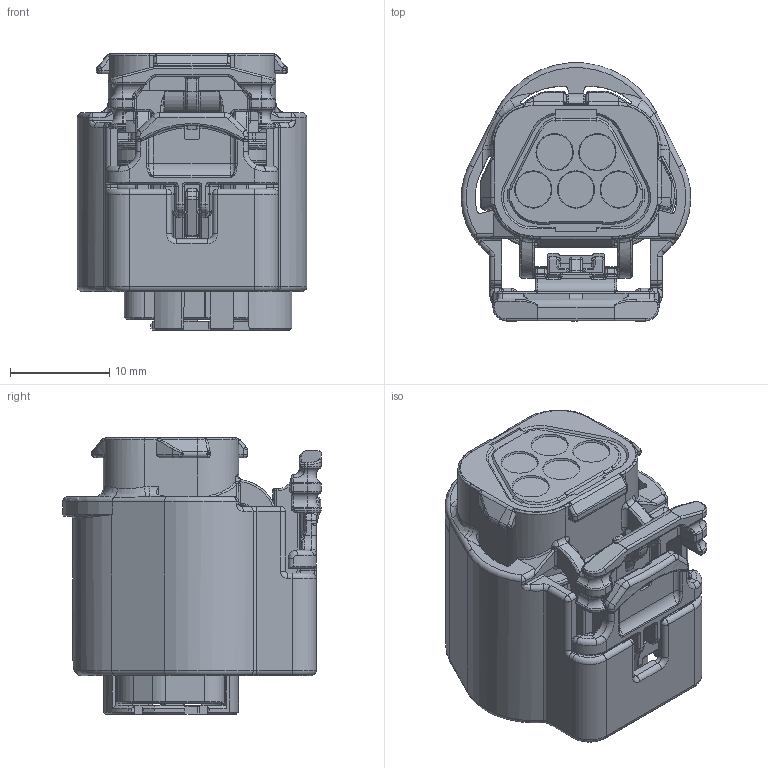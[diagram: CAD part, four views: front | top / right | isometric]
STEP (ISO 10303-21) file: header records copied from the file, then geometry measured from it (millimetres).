
FILE_DESCRIPTION(/* description */ (''),/* implementation_level */ '2;1');
FILE_NAME(/* name */ '1928A00152_00_1928405159.stp',/* time_stamp */ '2020-11-06T14:06:02+06:00',/* author */ (''),/* organization */ (''),/* preprocessor_version */ 'ST-DEVELOPER v16.7',/* originating_system */ 'SIEMENS PLM Software NX 1926',/* authorisation */ '');
FILE_SCHEMA (('AUTOMOTIVE_DESIGN { 1 0 10303 214 3 1 1 1 }'));
Length unit declared in the file: millimetre
Products named in the file (1): DPE70C9C7023b6cp
Bounding box: 23.09 x 25.97 x 27.77 mm (x, y, z)
Volume: 6813.4 mm3; surface area: 7222.3 mm2
Topology: 1 solids, 1 shells, 2579 faces, 6528 edges, 3807 vertices
Faces by surface type: cylinder 933, plane 774, bspline 366, torus 359, sphere 110, cone 35, extrusion 2
Entity records: 86815 total; most frequent: CARTESIAN_POINT 26808, ORIENTED_EDGE 12788, DIRECTION 12623, EDGE_CURVE 6394, AXIS2_PLACEMENT_3D 4803, VERTEX_POINT 3804, VECTOR 3017, LINE 3015
